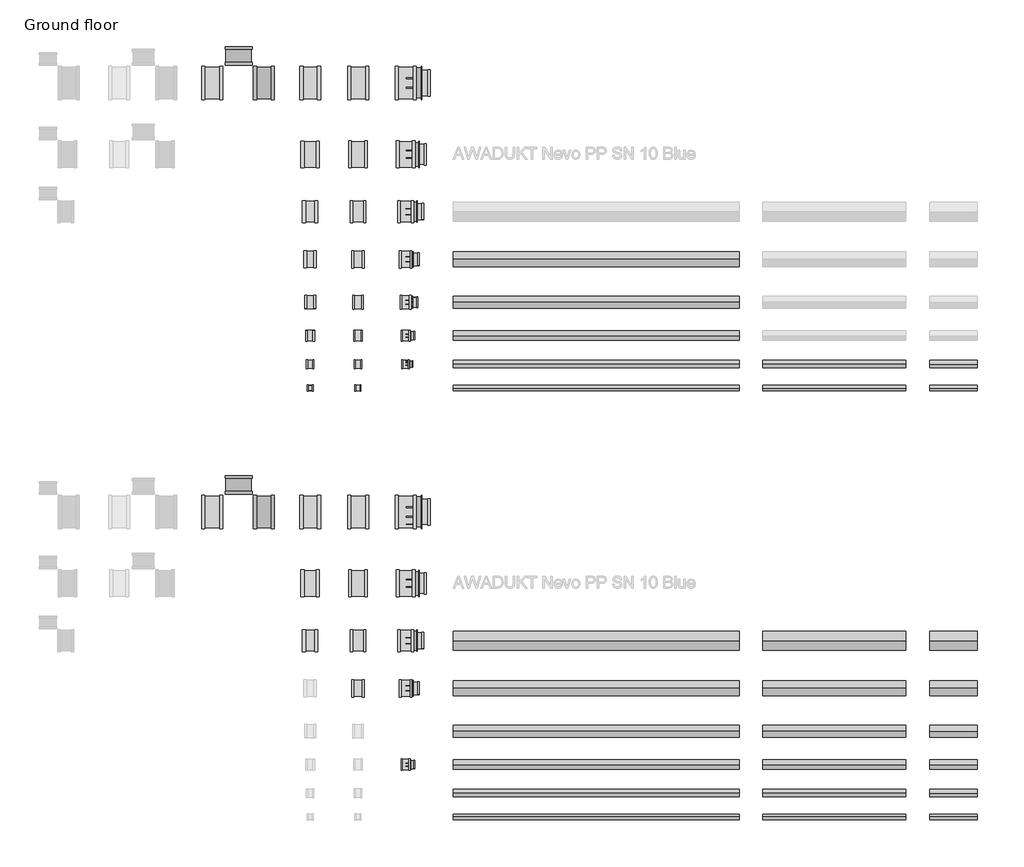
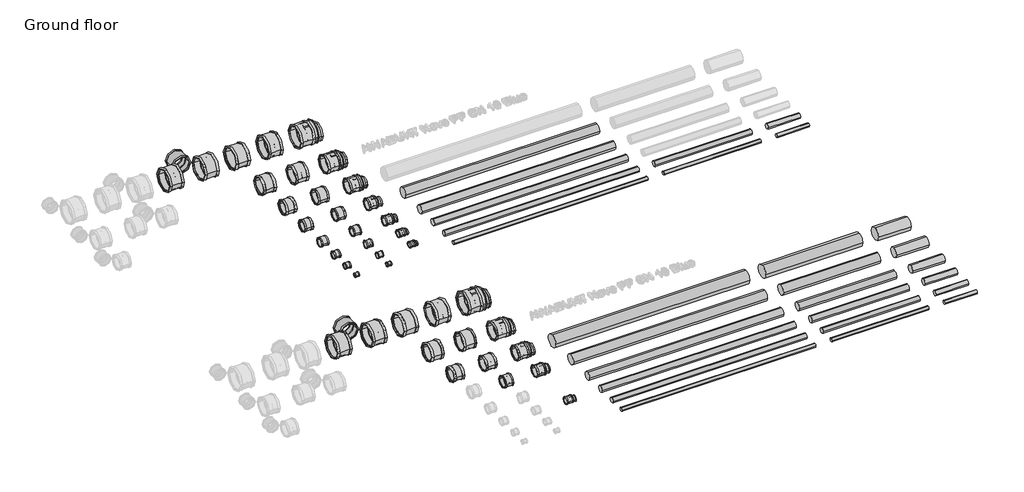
# One storey, part 5 of 10: 53 pipe fittings, 27 pipe segments.
"""IFC4 building model written with IfcOpenShell, lengths in millimetres."""

from ifc_helpers import new_model, si_unit, point, frame, frame_2d, origin, origin_2d, place, context, project, spatial, circle_curve, trimmed, segment, composite_curve, outline, extrude, transform, mapped, element, save
from components import pipe_fitting_e5a81f0f, pipe_fitting_366f8f33, pipe_fitting_b5a722ff, pipe_fitting_9bc79c39, pipe_fitting_2c23b5e5, pipe_fitting_3dc9645f, pipe_fitting_a818c1c7, blue_2b39e290, blue_81cd2d72, blue_a7021721, blue_271a95f6, blue_93814ad8, blue_b31ea3b4, blue_9578d6e9, blue_be33dc46, blue_01f449b1, blue_d79e372c, blue_eca1b971, blue_b5fe305e, blue_9a590d53, orange_5b8476dd, orange_85c0008d, pipe_fitting_0ebad727

model = new_model("IFC4")

# Units and contexts
model_context = context("Model", 3, world=origin())
ifc_project = project(units=[si_unit("LENGTHUNIT", "METRE", prefix="MILLI")], contexts=[model_context])

# Site, building, storey
site = spatial("IfcSite", under=ifc_project)
building = spatial("IfcBuilding", under=site)
storey = spatial("IfcBuildingStorey", under=building, Name="Ground floor", Elevation=0.0)

# Pipe fittings
placement = place(None, origin())
pipe_fitting_shape = pipe_fitting_e5a81f0f(model_context)
element("IfcPipeFitting", 1, ObjectType="AWADUKT PP Union DSM : Orange No PID", at=placement, inside=storey, context=model_context, shape_type="MappedRepresentation", body=[
    mapped(pipe_fitting_shape, transform((52200.0, 11700.0, 0.0), x_axis=(1.0, 0.0, 0.0), y_axis=(0.0, 1.0, 0.0), z_axis=(0.0, 0.0, 1.0))),
])
pipe_fitting_2_shape = pipe_fitting_366f8f33(model_context)
element("IfcPipeFitting", 2, ObjectType="AWADUKT PP Union DSM : Blue No PID", at=placement, inside=storey, context=model_context, shape_type="MappedRepresentation", body=[
    mapped(pipe_fitting_2_shape, transform((48139.0, 6400.0, 0.0), x_axis=(1.0, 0.0, 0.0), y_axis=(0.0, 1.0, 0.0), z_axis=(0.0, 0.0, 1.0))),
])
element("IfcPipeFitting", 3, ObjectType="AWADUKT PP Union DSM : Blue No PID", at=placement, inside=storey, context=model_context, shape_type="MappedRepresentation", body=[
    mapped(pipe_fitting_2_shape, transform((49236.0, 6400.0, 0.0), x_axis=(-1.0, 0.0, 0.0), y_axis=(0.0, -1.0, 0.0), z_axis=(0.0, 0.0, 1.0))),
])
element("IfcPipeFitting", 4, ObjectType="AWADUKT PP Union DSM : Blue No PID", at=placement, inside=storey, context=model_context, shape_type="MappedRepresentation", body=[
    mapped(pipe_fitting_2_shape, transform((52200.0, 6400.0, 0.0), x_axis=(1.0, 0.0, 0.0), y_axis=(0.0, 1.0, 0.0), z_axis=(0.0, 0.0, 1.0))),
])
pipe_fitting_3_shape = pipe_fitting_b5a722ff(model_context)
element("IfcPipeFitting", 5, ObjectType="AWADUKT PP Union DSM : Blue No PID", at=placement, inside=storey, context=model_context, shape_type="MappedRepresentation", body=[
    mapped(pipe_fitting_3_shape, transform((52200.0, 1100.0, 0.0), x_axis=(1.0, 0.0, 0.0), y_axis=(0.0, 1.0, 0.0), z_axis=(0.0, 0.0, 1.0))),
])
element("IfcPipeFitting", 6, ObjectType="AWADUKT PP Union DSM : Blue No PID", at=placement, inside=storey, context=model_context, shape_type="MappedRepresentation", body=[
    mapped(pipe_fitting_shape, transform((52200.0, 2700.0, 0.0), x_axis=(1.0, 0.0, 0.0), y_axis=(0.0, 1.0, 0.0), z_axis=(0.0, 0.0, 1.0))),
])
pipe_fitting_4_shape = pipe_fitting_9bc79c39(model_context)
element("IfcPipeFitting", 7, ObjectType="AWADUKT PP Union DSM : Blue No PID", at=placement, inside=storey, context=model_context, shape_type="MappedRepresentation", body=[
    mapped(pipe_fitting_4_shape, transform((52200.0, 3700.0, 0.0), x_axis=(1.0, 0.0, 0.0), y_axis=(0.0, 1.0, 0.0), z_axis=(0.0, 0.0, 1.0))),
])
pipe_fitting_5_shape = pipe_fitting_2c23b5e5(model_context)
element("IfcPipeFitting", 8, ObjectType="AWADUKT PP Union DSM : Blue No PID", at=placement, inside=storey, context=model_context, shape_type="MappedRepresentation", body=[
    mapped(pipe_fitting_5_shape, transform((48700.0, 6964.0, 0.0), x_axis=(0.0, 1.0, 0.0), y_axis=(-1.0, 0.0, 0.0), z_axis=(0.0, 0.0, 1.0))),
])
element("IfcPipeFitting", 9, ObjectType="AWADUKT PP Union DSM : Blue No PID", at=placement, inside=storey, context=model_context, shape_type="MappedRepresentation", body=[
    mapped(pipe_fitting_5_shape, transform((52200.0, 4900.0, 0.0), x_axis=(1.0, 0.0, 0.0), y_axis=(0.0, 1.0, 0.0), z_axis=(0.0, 0.0, 1.0))),
])
pipe_fitting_6_shape = pipe_fitting_3dc9645f(model_context)
element("IfcPipeFitting", 10, ObjectType="AWADUKT PP Union DSM : Orange No PID", at=placement, inside=storey, context=model_context, shape_type="MappedRepresentation", body=[
    mapped(pipe_fitting_6_shape, transform((52200.0, 9500.0, 0.0), x_axis=(1.0, 0.0, 0.0), y_axis=(0.0, 1.0, 0.0), z_axis=(0.0, 0.0, 1.0))),
])
element("IfcPipeFitting", 11, ObjectType="AWADUKT PP Union DSM : Orange No PID", at=placement, inside=storey, context=model_context, shape_type="MappedRepresentation", body=[
    mapped(pipe_fitting_3_shape, transform((52200.0, 10100.0, 0.0), x_axis=(1.0, 0.0, 0.0), y_axis=(0.0, 1.0, 0.0), z_axis=(0.0, 0.0, 1.0))),
])
pipe_fitting_7_shape = pipe_fitting_a818c1c7(model_context)
element("IfcPipeFitting", 12, ObjectType="AWADUKT PP Union DSM : Orange No PID", at=placement, inside=storey, context=model_context, shape_type="MappedRepresentation", body=[
    mapped(pipe_fitting_7_shape, transform((52200.0, 10800.0, 0.0), x_axis=(1.0, 0.0, 0.0), y_axis=(0.0, 1.0, 0.0), z_axis=(0.0, 0.0, 1.0))),
])
element("IfcPipeFitting", 13, ObjectType="AWADUKT PP Union DSM : Orange No PID", at=placement, inside=storey, context=model_context, shape_type="MappedRepresentation", body=[
    mapped(pipe_fitting_4_shape, transform((52200.0, 12700.0, 0.0), x_axis=(1.0, 0.0, 0.0), y_axis=(0.0, 1.0, 0.0), z_axis=(0.0, 0.0, 1.0))),
])
element("IfcPipeFitting", 14, ObjectType="AWADUKT PP Union DSM : Orange No PID", at=placement, inside=storey, context=model_context, shape_type="MappedRepresentation", body=[
    mapped(pipe_fitting_5_shape, transform((48700.0, 15964.0, 0.0), x_axis=(0.0, 1.0, 0.0), y_axis=(-1.0, 0.0, 0.0), z_axis=(0.0, 0.0, 1.0))),
])
element("IfcPipeFitting", 15, ObjectType="AWADUKT PP Union DSM : Orange No PID", at=placement, inside=storey, context=model_context, shape_type="MappedRepresentation", body=[
    mapped(pipe_fitting_5_shape, transform((52200.0, 13900.0, 0.0), x_axis=(1.0, 0.0, 0.0), y_axis=(0.0, 1.0, 0.0), z_axis=(0.0, 0.0, 1.0))),
])
element("IfcPipeFitting", 16, ObjectType="AWADUKT PP Union DSM : Orange No PID", at=placement, inside=storey, context=model_context, shape_type="MappedRepresentation", body=[
    mapped(pipe_fitting_2_shape, transform((48139.0, 15400.0, 0.0), x_axis=(1.0, 0.0, 0.0), y_axis=(0.0, 1.0, 0.0), z_axis=(0.0, 0.0, 1.0))),
])
element("IfcPipeFitting", 17, ObjectType="AWADUKT PP Union DSM : Orange No PID", at=placement, inside=storey, context=model_context, shape_type="MappedRepresentation", body=[
    mapped(pipe_fitting_2_shape, transform((49236.0, 15400.0, 0.0), x_axis=(-1.0, 0.0, 0.0), y_axis=(0.0, -1.0, 0.0), z_axis=(0.0, 0.0, 1.0))),
])
element("IfcPipeFitting", 18, ObjectType="AWADUKT PP Union DSM : Orange No PID", at=placement, inside=storey, context=model_context, shape_type="MappedRepresentation", body=[
    mapped(pipe_fitting_2_shape, transform((52200.0, 15400.0, 0.0), x_axis=(1.0, 0.0, 0.0), y_axis=(0.0, 1.0, 0.0), z_axis=(0.0, 0.0, 1.0))),
])
element("IfcPipeFitting", 19, ObjectType="AWADUKT PP Union DSM : Blue", at=placement, inside=storey, context=model_context, shape_type="MappedRepresentation", body=[
    mapped(pipe_fitting_2_shape, transform((51200.0, 6400.0, 0.0), x_axis=(1.0, 0.0, 0.0), y_axis=(0.0, 1.0, 0.0), z_axis=(0.0, 0.0, 1.0))),
])
blue_shape = blue_2b39e290(model_context)
element("IfcPipeFitting", 20, ObjectType="AWADUKT PP Union USM : Blue", at=placement, inside=storey, context=model_context, shape_type="MappedRepresentation", body=[
    mapped(blue_shape, transform((50200.0, 6400.0, 0.0), x_axis=(1.0, 0.0, 0.0), y_axis=(0.0, 1.0, 0.0), z_axis=(0.0, 0.0, 1.0))),
])
blue_2_shape = blue_81cd2d72(model_context)
element("IfcPipeFitting", 21, ObjectType="AWADUKT PP Union USM : Blue", at=placement, inside=storey, context=model_context, shape_type="MappedRepresentation", body=[
    mapped(blue_2_shape, transform((50200.0, 3700.0, 0.0), x_axis=(1.0, 0.0, 0.0), y_axis=(0.0, 1.0, 0.0), z_axis=(0.0, 0.0, 1.0))),
])
blue_3_shape = blue_a7021721(model_context)
element("IfcPipeFitting", 22, ObjectType="AWADUKT PP Union USM : Blue", at=placement, inside=storey, context=model_context, shape_type="MappedRepresentation", body=[
    mapped(blue_3_shape, transform((50200.0, 4900.0, 0.0), x_axis=(1.0, 0.0, 0.0), y_axis=(0.0, 1.0, 0.0), z_axis=(0.0, 0.0, 1.0))),
])
blue_4_shape = blue_271a95f6(model_context)
element("IfcPipeFitting", 23, ObjectType="AWADUKT PP Transition : Blue", at=placement, inside=storey, context=model_context, shape_type="MappedRepresentation", body=[
    mapped(blue_4_shape, transform((52200.0, 1100.0, 0.0), x_axis=(1.0, 0.0, 0.0), y_axis=(0.0, 1.0, 0.0), z_axis=(0.0, 0.0, 1.0))),
])
blue_5_shape = blue_93814ad8(model_context)
element("IfcPipeFitting", 24, ObjectType="AWADUKT PP Transition : Blue", at=placement, inside=storey, context=model_context, shape_type="MappedRepresentation", body=[
    mapped(blue_5_shape, transform((52200.0, 2700.0, 0.0), x_axis=(1.0, 0.0, 0.0), y_axis=(0.0, 1.0, 0.0), z_axis=(0.0, 0.0, 1.0))),
])
blue_6_shape = blue_b31ea3b4(model_context)
element("IfcPipeFitting", 25, ObjectType="AWADUKT PP Transition : Blue", at=placement, inside=storey, context=model_context, shape_type="MappedRepresentation", body=[
    mapped(blue_6_shape, transform((52200.0, 3700.0, 0.0), x_axis=(1.0, 0.0, 0.0), y_axis=(0.0, 1.0, 0.0), z_axis=(0.0, 0.0, 1.0))),
])
blue_7_shape = blue_9578d6e9(model_context)
element("IfcPipeFitting", 26, ObjectType="AWADUKT PP Transition : Blue", at=placement, inside=storey, context=model_context, shape_type="MappedRepresentation", body=[
    mapped(blue_7_shape, transform((52200.0, 4900.0, 0.0), x_axis=(1.0, 0.0, 0.0), y_axis=(0.0, 1.0, 0.0), z_axis=(0.0, 0.0, 1.0))),
])
blue_8_shape = blue_be33dc46(model_context)
element("IfcPipeFitting", 27, ObjectType="AWADUKT PP Transition : Blue", at=placement, inside=storey, context=model_context, shape_type="MappedRepresentation", body=[
    mapped(blue_8_shape, transform((52200.0, 6400.0, 0.0), x_axis=(1.0, 0.0, 0.0), y_axis=(0.0, 1.0, 0.0), z_axis=(0.0, 0.0, 1.0))),
])
element("IfcPipeFitting", 28, ObjectType="AWADUKT PP Union DSM : Blue", at=placement, inside=storey, context=model_context, shape_type="MappedRepresentation", body=[
    mapped(pipe_fitting_shape, transform((51200.0, 2700.0, 0.0), x_axis=(1.0, 0.0, 0.0), y_axis=(0.0, 1.0, 0.0), z_axis=(0.0, 0.0, 1.0))),
])
element("IfcPipeFitting", 29, ObjectType="AWADUKT PP Union DSM : Blue", at=placement, inside=storey, context=model_context, shape_type="MappedRepresentation", body=[
    mapped(pipe_fitting_4_shape, transform((51200.0, 3700.0, 0.0), x_axis=(1.0, 0.0, 0.0), y_axis=(0.0, 1.0, 0.0), z_axis=(0.0, 0.0, 1.0))),
])
element("IfcPipeFitting", 30, ObjectType="AWADUKT PP Union DSM : Blue", at=placement, inside=storey, context=model_context, shape_type="MappedRepresentation", body=[
    mapped(pipe_fitting_5_shape, transform((51200.0, 4900.0, 0.0), x_axis=(1.0, 0.0, 0.0), y_axis=(0.0, 1.0, 0.0), z_axis=(0.0, 0.0, 1.0))),
])
element("IfcPipeFitting", 31, ObjectType="AWADUKT PP Union DSM : Orange", at=placement, inside=storey, context=model_context, shape_type="MappedRepresentation", body=[
    mapped(pipe_fitting_2_shape, transform((51200.0, 15400.0, 0.0), x_axis=(1.0, 0.0, 0.0), y_axis=(0.0, 1.0, 0.0), z_axis=(0.0, 0.0, 1.0))),
])
element("IfcPipeFitting", 32, ObjectType="AWADUKT PP Transition : Orange", at=placement, inside=storey, context=model_context, shape_type="MappedRepresentation", body=[
    mapped(blue_5_shape, transform((52200.0, 11700.0, 0.0), x_axis=(1.0, 0.0, 0.0), y_axis=(0.0, 1.0, 0.0), z_axis=(0.0, 0.0, 1.0))),
])
element("IfcPipeFitting", 33, ObjectType="AWADUKT PP Union USM : Orange", at=placement, inside=storey, context=model_context, shape_type="MappedRepresentation", body=[
    mapped(blue_shape, transform((50200.0, 15400.0, 0.0), x_axis=(1.0, 0.0, 0.0), y_axis=(0.0, 1.0, 0.0), z_axis=(0.0, 0.0, 1.0))),
])
blue_9_shape = blue_01f449b1(model_context)
element("IfcPipeFitting", 34, ObjectType="AWADUKT PP Union USM : Orange", at=placement, inside=storey, context=model_context, shape_type="MappedRepresentation", body=[
    mapped(blue_9_shape, transform((50200.0, 9000.0, 0.0), x_axis=(1.0, 0.0, 0.0), y_axis=(0.0, 1.0, 0.0), z_axis=(0.0, 0.0, 1.0))),
])
blue_10_shape = blue_d79e372c(model_context)
element("IfcPipeFitting", 35, ObjectType="AWADUKT PP Union USM : Orange", at=placement, inside=storey, context=model_context, shape_type="MappedRepresentation", body=[
    mapped(blue_10_shape, transform((50200.0, 10100.0, 0.0), x_axis=(1.0, 0.0, 0.0), y_axis=(0.0, 1.0, 0.0), z_axis=(0.0, 0.0, 1.0))),
])
blue_11_shape = blue_eca1b971(model_context)
element("IfcPipeFitting", 36, ObjectType="AWADUKT PP Union USM : Orange", at=placement, inside=storey, context=model_context, shape_type="MappedRepresentation", body=[
    mapped(blue_11_shape, transform((50200.0, 10800.0, 0.0), x_axis=(1.0, 0.0, 0.0), y_axis=(0.0, 1.0, 0.0), z_axis=(0.0, 0.0, 1.0))),
])
blue_12_shape = blue_b5fe305e(model_context)
element("IfcPipeFitting", 37, ObjectType="AWADUKT PP Union USM : Orange", at=placement, inside=storey, context=model_context, shape_type="MappedRepresentation", body=[
    mapped(blue_12_shape, transform((50200.0, 11700.0, 0.0), x_axis=(1.0, 0.0, 0.0), y_axis=(0.0, 1.0, 0.0), z_axis=(0.0, 0.0, 1.0))),
])
element("IfcPipeFitting", 38, ObjectType="AWADUKT PP Union USM : Orange", at=placement, inside=storey, context=model_context, shape_type="MappedRepresentation", body=[
    mapped(blue_2_shape, transform((50200.0, 12700.0, 0.0), x_axis=(1.0, 0.0, 0.0), y_axis=(0.0, 1.0, 0.0), z_axis=(0.0, 0.0, 1.0))),
])
element("IfcPipeFitting", 39, ObjectType="AWADUKT PP Union USM : Orange", at=placement, inside=storey, context=model_context, shape_type="MappedRepresentation", body=[
    mapped(blue_3_shape, transform((50200.0, 13900.0, 0.0), x_axis=(1.0, 0.0, 0.0), y_axis=(0.0, 1.0, 0.0), z_axis=(0.0, 0.0, 1.0))),
])
blue_13_shape = blue_9a590d53(model_context)
element("IfcPipeFitting", 40, ObjectType="AWADUKT PP Union USM : Orange", at=placement, inside=storey, context=model_context, shape_type="MappedRepresentation", body=[
    mapped(blue_13_shape, transform((50200.0, 9500.0, 0.0), x_axis=(1.0, 0.0, 0.0), y_axis=(0.0, 1.0, 0.0), z_axis=(0.0, 0.0, 1.0))),
])
element("IfcPipeFitting", 41, ObjectType="AWADUKT PP Transition : Orange", at=placement, inside=storey, context=model_context, shape_type="MappedRepresentation", body=[
    mapped(blue_4_shape, transform((52200.0, 10100.0, 0.0), x_axis=(1.0, 0.0, 0.0), y_axis=(0.0, 1.0, 0.0), z_axis=(0.0, 0.0, 1.0))),
])
orange_shape = orange_5b8476dd(model_context)
element("IfcPipeFitting", 42, ObjectType="AWADUKT PP Transition : Orange", at=placement, inside=storey, context=model_context, shape_type="MappedRepresentation", body=[
    mapped(orange_shape, transform((52200.0, 10800.0, 0.0), x_axis=(1.0, 0.0, 0.0), y_axis=(0.0, 1.0, 0.0), z_axis=(0.0, 0.0, 1.0))),
])
element("IfcPipeFitting", 43, ObjectType="AWADUKT PP Transition : Orange", at=placement, inside=storey, context=model_context, shape_type="MappedRepresentation", body=[
    mapped(blue_6_shape, transform((52200.0, 12700.0, 0.0), x_axis=(1.0, 0.0, 0.0), y_axis=(0.0, 1.0, 0.0), z_axis=(0.0, 0.0, 1.0))),
])
element("IfcPipeFitting", 44, ObjectType="AWADUKT PP Transition : Orange", at=placement, inside=storey, context=model_context, shape_type="MappedRepresentation", body=[
    mapped(blue_7_shape, transform((52200.0, 13900.0, 0.0), x_axis=(1.0, 0.0, 0.0), y_axis=(0.0, 1.0, 0.0), z_axis=(0.0, 0.0, 1.0))),
])
element("IfcPipeFitting", 45, ObjectType="AWADUKT PP Transition : Orange", at=placement, inside=storey, context=model_context, shape_type="MappedRepresentation", body=[
    mapped(blue_8_shape, transform((52200.0, 15400.0, 0.0), x_axis=(1.0, 0.0, 0.0), y_axis=(0.0, 1.0, 0.0), z_axis=(0.0, 0.0, 1.0))),
])
orange_2_shape = orange_85c0008d(model_context)
element("IfcPipeFitting", 46, ObjectType="AWADUKT PP Transition : Orange", at=placement, inside=storey, context=model_context, shape_type="MappedRepresentation", body=[
    mapped(orange_2_shape, transform((52200.0, 9500.0, 0.0), x_axis=(1.0, 0.0, 0.0), y_axis=(0.0, 1.0, 0.0), z_axis=(0.0, 0.0, 1.0))),
])
pipe_fitting_8_shape = pipe_fitting_0ebad727(model_context)
element("IfcPipeFitting", 47, ObjectType="AWADUKT PP Union DSM : Orange", at=placement, inside=storey, context=model_context, shape_type="MappedRepresentation", body=[
    mapped(pipe_fitting_8_shape, transform((51200.0, 9000.0, 0.0), x_axis=(1.0, 0.0, 0.0), y_axis=(0.0, 1.0, 0.0), z_axis=(0.0, 0.0, 1.0))),
])
element("IfcPipeFitting", 48, ObjectType="AWADUKT PP Union DSM : Orange", at=placement, inside=storey, context=model_context, shape_type="MappedRepresentation", body=[
    mapped(pipe_fitting_3_shape, transform((51200.0, 10100.0, 0.0), x_axis=(1.0, 0.0, 0.0), y_axis=(0.0, 1.0, 0.0), z_axis=(0.0, 0.0, 1.0))),
])
element("IfcPipeFitting", 49, ObjectType="AWADUKT PP Union DSM : Orange", at=placement, inside=storey, context=model_context, shape_type="MappedRepresentation", body=[
    mapped(pipe_fitting_7_shape, transform((51200.0, 10800.0, 0.0), x_axis=(1.0, 0.0, 0.0), y_axis=(0.0, 1.0, 0.0), z_axis=(0.0, 0.0, 1.0))),
])
element("IfcPipeFitting", 50, ObjectType="AWADUKT PP Union DSM : Orange", at=placement, inside=storey, context=model_context, shape_type="MappedRepresentation", body=[
    mapped(pipe_fitting_shape, transform((51200.0, 11700.0, 0.0), x_axis=(1.0, 0.0, 0.0), y_axis=(0.0, 1.0, 0.0), z_axis=(0.0, 0.0, 1.0))),
])
element("IfcPipeFitting", 51, ObjectType="AWADUKT PP Union DSM : Orange", at=placement, inside=storey, context=model_context, shape_type="MappedRepresentation", body=[
    mapped(pipe_fitting_4_shape, transform((51200.0, 12700.0, 0.0), x_axis=(1.0, 0.0, 0.0), y_axis=(0.0, 1.0, 0.0), z_axis=(0.0, 0.0, 1.0))),
])
element("IfcPipeFitting", 52, ObjectType="AWADUKT PP Union DSM : Orange", at=placement, inside=storey, context=model_context, shape_type="MappedRepresentation", body=[
    mapped(pipe_fitting_5_shape, transform((51200.0, 13900.0, 0.0), x_axis=(1.0, 0.0, 0.0), y_axis=(0.0, 1.0, 0.0), z_axis=(0.0, 0.0, 1.0))),
])
element("IfcPipeFitting", 53, ObjectType="AWADUKT PP Union DSM : Orange", at=placement, inside=storey, context=model_context, shape_type="MappedRepresentation", body=[
    mapped(pipe_fitting_6_shape, transform((51200.0, 9500.0, 0.0), x_axis=(1.0, 0.0, 0.0), y_axis=(0.0, 1.0, 0.0), z_axis=(0.0, 0.0, 1.0))),
])

# Pipe segments
element("IfcPipeSegment", 54, ObjectType="AWADUKT NevoPP SN10 Blue", at=placement, inside=storey, context=model_context, shape_type="SweptSolid", body=[
    extrude(outline(composite_curve([segment(trimmed(circle_curve(origin_2d(), 55.0), [point((-55.0, 0.0))], [point((0.0, 55.0))], False, "CARTESIAN"), True, "CONTINUOUS"), segment(trimmed(circle_curve(origin_2d(), 55.0), [point((0.0, 55.0))], [point((55.0, 0.0))], False, "CARTESIAN"), True, "CONTINUOUS"), segment(trimmed(circle_curve(origin_2d(), 55.0), [point((55.0, 0.0))], [point((0.0, -55.0))], False, "CARTESIAN"), True, "CONTINUOUS"), segment(trimmed(circle_curve(origin_2d(), 55.0), [point((0.0, -55.0))], [point((-55.0, 0.0))], False, "CARTESIAN"), True, "CONTINUOUS")], self_intersect=False)), frame((53200.0, 0.0, 0.0), z_axis=(1.0, 0.0, 0.0), x_axis=(0.0, 1.0, 0.0)), (0.0, 0.0, 1.0), 6000.0),
])
element("IfcPipeSegment", 55, ObjectType="AWADUKT NevoPP SN10 Blue", at=placement, inside=storey, context=model_context, shape_type="SweptSolid", body=[
    extrude(outline(composite_curve([segment(trimmed(circle_curve(frame_2d((500.0, 0.0)), 80.0), [point((420.0, 0.0))], [point((500.0, 80.0))], False, "CARTESIAN"), True, "CONTINUOUS"), segment(trimmed(circle_curve(frame_2d((500.0, 0.0)), 80.0), [point((500.0, 80.0))], [point((580.0, 0.0))], False, "CARTESIAN"), True, "CONTINUOUS"), segment(trimmed(circle_curve(frame_2d((500.0, 0.0)), 80.0), [point((580.0, 0.0))], [point((500.0, -80.0))], False, "CARTESIAN"), True, "CONTINUOUS"), segment(trimmed(circle_curve(frame_2d((500.0, 0.0)), 80.0), [point((500.0, -80.0))], [point((420.0, 0.0))], False, "CARTESIAN"), True, "CONTINUOUS")], self_intersect=False)), frame((53200.0, 0.0, 0.0), z_axis=(1.0, 0.0, 0.0), x_axis=(0.0, 1.0, 0.0)), (0.0, 0.0, 1.0), 6000.0),
])
element("IfcPipeSegment", 56, ObjectType="AWADUKT NevoPP SN10 Blue", at=placement, inside=storey, context=model_context, shape_type="SweptSolid", body=[
    extrude(outline(composite_curve([segment(trimmed(circle_curve(frame_2d((1100.0, 0.0)), 100.0), [point((1000.0, 0.0))], [point((1100.0, 100.0))], False, "CARTESIAN"), True, "CONTINUOUS"), segment(trimmed(circle_curve(frame_2d((1100.0, 0.0)), 100.0), [point((1100.0, 100.0))], [point((1200.0, 0.0))], False, "CARTESIAN"), True, "CONTINUOUS"), segment(trimmed(circle_curve(frame_2d((1100.0, 0.0)), 100.0), [point((1200.0, 0.0))], [point((1100.0, -100.0))], False, "CARTESIAN"), True, "CONTINUOUS"), segment(trimmed(circle_curve(frame_2d((1100.0, 0.0)), 100.0), [point((1100.0, -100.0))], [point((1000.0, 0.0))], False, "CARTESIAN"), True, "CONTINUOUS")], self_intersect=False)), frame((53200.0, 0.0, 0.0), z_axis=(1.0, 0.0, 0.0), x_axis=(0.0, 1.0, 0.0)), (0.0, 0.0, 1.0), 6000.0),
])
element("IfcPipeSegment", 57, ObjectType="AWADUKT NevoPP SN10 Blue", at=placement, inside=storey, context=model_context, shape_type="SweptSolid", body=[
    extrude(outline(composite_curve([segment(trimmed(circle_curve(frame_2d((1800.0, 0.0)), 125.0), [point((1675.0, 0.0))], [point((1800.0, 125.0))], False, "CARTESIAN"), True, "CONTINUOUS"), segment(trimmed(circle_curve(frame_2d((1800.0, 0.0)), 125.0), [point((1800.0, 125.0))], [point((1925.0, 0.0))], False, "CARTESIAN"), True, "CONTINUOUS"), segment(trimmed(circle_curve(frame_2d((1800.0, 0.0)), 125.0), [point((1925.0, 0.0))], [point((1800.0, -125.0))], False, "CARTESIAN"), True, "CONTINUOUS"), segment(trimmed(circle_curve(frame_2d((1800.0, 0.0)), 125.0), [point((1800.0, -125.0))], [point((1675.0, 0.0))], False, "CARTESIAN"), True, "CONTINUOUS")], self_intersect=False)), frame((53200.0, 0.0, 0.0), z_axis=(1.0, 0.0, 0.0), x_axis=(0.0, 1.0, 0.0)), (0.0, 0.0, 1.0), 6000.0),
])
element("IfcPipeSegment", 58, ObjectType="AWADUKT NevoPP SN10 Blue", at=placement, inside=storey, context=model_context, shape_type="SweptSolid", body=[
    extrude(outline(composite_curve([segment(trimmed(circle_curve(frame_2d((2700.0, 0.0)), 157.5), [point((2542.5, 0.0))], [point((2700.0, 157.5))], False, "CARTESIAN"), True, "CONTINUOUS"), segment(trimmed(circle_curve(frame_2d((2700.0, 0.0)), 157.5), [point((2700.0, 157.5))], [point((2857.5, 0.0))], False, "CARTESIAN"), True, "CONTINUOUS"), segment(trimmed(circle_curve(frame_2d((2700.0, 0.0)), 157.5), [point((2857.5, 0.0))], [point((2700.0, -157.5))], False, "CARTESIAN"), True, "CONTINUOUS"), segment(trimmed(circle_curve(frame_2d((2700.0, 0.0)), 157.5), [point((2700.0, -157.5))], [point((2542.5, 0.0))], False, "CARTESIAN"), True, "CONTINUOUS")], self_intersect=False)), frame((53200.0, 0.0, 0.0), z_axis=(1.0, 0.0, 0.0), x_axis=(0.0, 1.0, 0.0)), (0.0, 0.0, 1.0), 6000.0),
])
element("IfcPipeSegment", 59, ObjectType="AWADUKT NevoPP SN10 Blue", at=placement, inside=storey, context=model_context, shape_type="SweptSolid", body=[
    extrude(outline(composite_curve([segment(trimmed(circle_curve(frame_2d((3700.0, 0.0)), 200.0), [point((3500.0, 0.0))], [point((3700.0, 200.0))], False, "CARTESIAN"), True, "CONTINUOUS"), segment(trimmed(circle_curve(frame_2d((3700.0, 0.0)), 200.0), [point((3700.0, 200.0))], [point((3900.0, 0.0))], False, "CARTESIAN"), True, "CONTINUOUS"), segment(trimmed(circle_curve(frame_2d((3700.0, 0.0)), 200.0), [point((3900.0, 0.0))], [point((3700.0, -200.0))], False, "CARTESIAN"), True, "CONTINUOUS"), segment(trimmed(circle_curve(frame_2d((3700.0, 0.0)), 200.0), [point((3700.0, -200.0))], [point((3500.0, 0.0))], False, "CARTESIAN"), True, "CONTINUOUS")], self_intersect=False)), frame((53200.0, 0.0, 0.0), z_axis=(1.0, 0.0, 0.0), x_axis=(0.0, 1.0, 0.0)), (0.0, 0.0, 1.0), 6000.0),
])
element("IfcPipeSegment", 60, ObjectType="AWADUKT NevoPP SN10 Blue", at=placement, inside=storey, context=model_context, shape_type="SweptSolid", body=[
    extrude(outline(composite_curve([segment(trimmed(circle_curve(origin_2d(), 55.0), [point((-55.0, 0.0))], [point((0.0, 55.0))], False, "CARTESIAN"), True, "CONTINUOUS"), segment(trimmed(circle_curve(origin_2d(), 55.0), [point((0.0, 55.0))], [point((55.0, 0.0))], False, "CARTESIAN"), True, "CONTINUOUS"), segment(trimmed(circle_curve(origin_2d(), 55.0), [point((55.0, 0.0))], [point((0.0, -55.0))], False, "CARTESIAN"), True, "CONTINUOUS"), segment(trimmed(circle_curve(origin_2d(), 55.0), [point((0.0, -55.0))], [point((-55.0, 0.0))], False, "CARTESIAN"), True, "CONTINUOUS")], self_intersect=False)), frame((59700.0, 0.0, 0.0), z_axis=(1.0, 0.0, 0.0), x_axis=(0.0, 1.0, 0.0)), (0.0, 0.0, 1.0), 3000.0),
])
element("IfcPipeSegment", 61, ObjectType="AWADUKT NevoPP SN10 Blue", at=placement, inside=storey, context=model_context, shape_type="SweptSolid", body=[
    extrude(outline(composite_curve([segment(trimmed(circle_curve(frame_2d((500.0, 0.0)), 80.0), [point((420.0, 0.0))], [point((500.0, 80.0))], False, "CARTESIAN"), True, "CONTINUOUS"), segment(trimmed(circle_curve(frame_2d((500.0, 0.0)), 80.0), [point((500.0, 80.0))], [point((580.0, 0.0))], False, "CARTESIAN"), True, "CONTINUOUS"), segment(trimmed(circle_curve(frame_2d((500.0, 0.0)), 80.0), [point((580.0, 0.0))], [point((500.0, -80.0))], False, "CARTESIAN"), True, "CONTINUOUS"), segment(trimmed(circle_curve(frame_2d((500.0, 0.0)), 80.0), [point((500.0, -80.0))], [point((420.0, 0.0))], False, "CARTESIAN"), True, "CONTINUOUS")], self_intersect=False)), frame((59700.0, 0.0, 0.0), z_axis=(1.0, 0.0, 0.0), x_axis=(0.0, 1.0, 0.0)), (0.0, 0.0, 1.0), 3000.0),
])
element("IfcPipeSegment", 62, ObjectType="AWADUKT NevoPP SN10 Blue", at=placement, inside=storey, context=model_context, shape_type="SweptSolid", body=[
    extrude(outline(composite_curve([segment(trimmed(circle_curve(frame_2d((1100.0, 0.0)), 100.0), [point((1000.0, 0.0))], [point((1100.0, 100.0))], False, "CARTESIAN"), True, "CONTINUOUS"), segment(trimmed(circle_curve(frame_2d((1100.0, 0.0)), 100.0), [point((1100.0, 100.0))], [point((1200.0, 0.0))], False, "CARTESIAN"), True, "CONTINUOUS"), segment(trimmed(circle_curve(frame_2d((1100.0, 0.0)), 100.0), [point((1200.0, 0.0))], [point((1100.0, -100.0))], False, "CARTESIAN"), True, "CONTINUOUS"), segment(trimmed(circle_curve(frame_2d((1100.0, 0.0)), 100.0), [point((1100.0, -100.0))], [point((1000.0, 0.0))], False, "CARTESIAN"), True, "CONTINUOUS")], self_intersect=False)), frame((59700.0, 0.0, 0.0), z_axis=(1.0, 0.0, 0.0), x_axis=(0.0, 1.0, 0.0)), (0.0, 0.0, 1.0), 3000.0),
])
element("IfcPipeSegment", 63, ObjectType="AWADUKT NevoPP SN10 Blue", at=placement, inside=storey, context=model_context, shape_type="SweptSolid", body=[
    extrude(outline(composite_curve([segment(trimmed(circle_curve(frame_2d((1800.0, 0.0)), 125.0), [point((1675.0, 0.0))], [point((1800.0, 125.0))], False, "CARTESIAN"), True, "CONTINUOUS"), segment(trimmed(circle_curve(frame_2d((1800.0, 0.0)), 125.0), [point((1800.0, 125.0))], [point((1925.0, 0.0))], False, "CARTESIAN"), True, "CONTINUOUS"), segment(trimmed(circle_curve(frame_2d((1800.0, 0.0)), 125.0), [point((1925.0, 0.0))], [point((1800.0, -125.0))], False, "CARTESIAN"), True, "CONTINUOUS"), segment(trimmed(circle_curve(frame_2d((1800.0, 0.0)), 125.0), [point((1800.0, -125.0))], [point((1675.0, 0.0))], False, "CARTESIAN"), True, "CONTINUOUS")], self_intersect=False)), frame((59700.0, 0.0, 0.0), z_axis=(1.0, 0.0, 0.0), x_axis=(0.0, 1.0, 0.0)), (0.0, 0.0, 1.0), 3000.0),
])
element("IfcPipeSegment", 64, ObjectType="AWADUKT NevoPP SN10 Blue", at=placement, inside=storey, context=model_context, shape_type="SweptSolid", body=[
    extrude(outline(composite_curve([segment(trimmed(circle_curve(frame_2d((2700.0, 0.0)), 157.5), [point((2542.5, 0.0))], [point((2700.0, 157.5))], False, "CARTESIAN"), True, "CONTINUOUS"), segment(trimmed(circle_curve(frame_2d((2700.0, 0.0)), 157.5), [point((2700.0, 157.5))], [point((2857.5, 0.0))], False, "CARTESIAN"), True, "CONTINUOUS"), segment(trimmed(circle_curve(frame_2d((2700.0, 0.0)), 157.5), [point((2857.5, 0.0))], [point((2700.0, -157.5))], False, "CARTESIAN"), True, "CONTINUOUS"), segment(trimmed(circle_curve(frame_2d((2700.0, 0.0)), 157.5), [point((2700.0, -157.5))], [point((2542.5, 0.0))], False, "CARTESIAN"), True, "CONTINUOUS")], self_intersect=False)), frame((59700.0, 0.0, 0.0), z_axis=(1.0, 0.0, 0.0), x_axis=(0.0, 1.0, 0.0)), (0.0, 0.0, 1.0), 3000.0),
])
element("IfcPipeSegment", 65, ObjectType="AWADUKT NevoPP SN10 Blue", at=placement, inside=storey, context=model_context, shape_type="SweptSolid", body=[
    extrude(outline(composite_curve([segment(trimmed(circle_curve(frame_2d((3700.0, 0.0)), 200.0), [point((3500.0, 0.0))], [point((3700.0, 200.0))], False, "CARTESIAN"), True, "CONTINUOUS"), segment(trimmed(circle_curve(frame_2d((3700.0, 0.0)), 200.0), [point((3700.0, 200.0))], [point((3900.0, 0.0))], False, "CARTESIAN"), True, "CONTINUOUS"), segment(trimmed(circle_curve(frame_2d((3700.0, 0.0)), 200.0), [point((3900.0, 0.0))], [point((3700.0, -200.0))], False, "CARTESIAN"), True, "CONTINUOUS"), segment(trimmed(circle_curve(frame_2d((3700.0, 0.0)), 200.0), [point((3700.0, -200.0))], [point((3500.0, 0.0))], False, "CARTESIAN"), True, "CONTINUOUS")], self_intersect=False)), frame((59700.0, 0.0, 0.0), z_axis=(1.0, 0.0, 0.0), x_axis=(0.0, 1.0, 0.0)), (0.0, 0.0, 1.0), 3000.0),
])
element("IfcPipeSegment", 66, ObjectType="AWADUKT NevoPP SN10 Blue", at=placement, inside=storey, context=model_context, shape_type="SweptSolid", body=[
    extrude(outline(composite_curve([segment(trimmed(circle_curve(origin_2d(), 55.0), [point((-55.0, 0.0))], [point((0.0, 55.0))], False, "CARTESIAN"), True, "CONTINUOUS"), segment(trimmed(circle_curve(origin_2d(), 55.0), [point((0.0, 55.0))], [point((55.0, 0.0))], False, "CARTESIAN"), True, "CONTINUOUS"), segment(trimmed(circle_curve(origin_2d(), 55.0), [point((55.0, 0.0))], [point((0.0, -55.0))], False, "CARTESIAN"), True, "CONTINUOUS"), segment(trimmed(circle_curve(origin_2d(), 55.0), [point((0.0, -55.0))], [point((-55.0, 0.0))], False, "CARTESIAN"), True, "CONTINUOUS")], self_intersect=False)), frame((63200.0, 0.0, 0.0), z_axis=(1.0, 0.0, 0.0), x_axis=(0.0, 1.0, 0.0)), (0.0, 0.0, 1.0), 1000.0),
])
element("IfcPipeSegment", 67, ObjectType="AWADUKT NevoPP SN10 Blue", at=placement, inside=storey, context=model_context, shape_type="SweptSolid", body=[
    extrude(outline(composite_curve([segment(trimmed(circle_curve(frame_2d((500.0, 0.0)), 80.0), [point((420.0, 0.0))], [point((500.0, 80.0))], False, "CARTESIAN"), True, "CONTINUOUS"), segment(trimmed(circle_curve(frame_2d((500.0, 0.0)), 80.0), [point((500.0, 80.0))], [point((580.0, 0.0))], False, "CARTESIAN"), True, "CONTINUOUS"), segment(trimmed(circle_curve(frame_2d((500.0, 0.0)), 80.0), [point((580.0, 0.0))], [point((500.0, -80.0))], False, "CARTESIAN"), True, "CONTINUOUS"), segment(trimmed(circle_curve(frame_2d((500.0, 0.0)), 80.0), [point((500.0, -80.0))], [point((420.0, 0.0))], False, "CARTESIAN"), True, "CONTINUOUS")], self_intersect=False)), frame((63200.0, 0.0, 0.0), z_axis=(1.0, 0.0, 0.0), x_axis=(0.0, 1.0, 0.0)), (0.0, 0.0, 1.0), 1000.0),
])
element("IfcPipeSegment", 68, ObjectType="AWADUKT NevoPP SN10 Blue", at=placement, inside=storey, context=model_context, shape_type="SweptSolid", body=[
    extrude(outline(composite_curve([segment(trimmed(circle_curve(frame_2d((1100.0, 0.0)), 100.0), [point((1000.0, 0.0))], [point((1100.0, 100.0))], False, "CARTESIAN"), True, "CONTINUOUS"), segment(trimmed(circle_curve(frame_2d((1100.0, 0.0)), 100.0), [point((1100.0, 100.0))], [point((1200.0, 0.0))], False, "CARTESIAN"), True, "CONTINUOUS"), segment(trimmed(circle_curve(frame_2d((1100.0, 0.0)), 100.0), [point((1200.0, 0.0))], [point((1100.0, -100.0))], False, "CARTESIAN"), True, "CONTINUOUS"), segment(trimmed(circle_curve(frame_2d((1100.0, 0.0)), 100.0), [point((1100.0, -100.0))], [point((1000.0, 0.0))], False, "CARTESIAN"), True, "CONTINUOUS")], self_intersect=False)), frame((63200.0, 0.0, 0.0), z_axis=(1.0, 0.0, 0.0), x_axis=(0.0, 1.0, 0.0)), (0.0, 0.0, 1.0), 1000.0),
])
element("IfcPipeSegment", 69, ObjectType="AWADUKT NevoPP SN10 Blue", at=placement, inside=storey, context=model_context, shape_type="SweptSolid", body=[
    extrude(outline(composite_curve([segment(trimmed(circle_curve(frame_2d((1800.0, 0.0)), 125.0), [point((1675.0, 0.0))], [point((1800.0, 125.0))], False, "CARTESIAN"), True, "CONTINUOUS"), segment(trimmed(circle_curve(frame_2d((1800.0, 0.0)), 125.0), [point((1800.0, 125.0))], [point((1925.0, 0.0))], False, "CARTESIAN"), True, "CONTINUOUS"), segment(trimmed(circle_curve(frame_2d((1800.0, 0.0)), 125.0), [point((1925.0, 0.0))], [point((1800.0, -125.0))], False, "CARTESIAN"), True, "CONTINUOUS"), segment(trimmed(circle_curve(frame_2d((1800.0, 0.0)), 125.0), [point((1800.0, -125.0))], [point((1675.0, 0.0))], False, "CARTESIAN"), True, "CONTINUOUS")], self_intersect=False)), frame((63200.0, 0.0, 0.0), z_axis=(1.0, 0.0, 0.0), x_axis=(0.0, 1.0, 0.0)), (0.0, 0.0, 1.0), 1000.0),
])
element("IfcPipeSegment", 70, ObjectType="AWADUKT NevoPP SN10 Blue", at=placement, inside=storey, context=model_context, shape_type="SweptSolid", body=[
    extrude(outline(composite_curve([segment(trimmed(circle_curve(frame_2d((2700.0, 0.0)), 157.5), [point((2542.5, 0.0))], [point((2700.0, 157.5))], False, "CARTESIAN"), True, "CONTINUOUS"), segment(trimmed(circle_curve(frame_2d((2700.0, 0.0)), 157.5), [point((2700.0, 157.5))], [point((2857.5, 0.0))], False, "CARTESIAN"), True, "CONTINUOUS"), segment(trimmed(circle_curve(frame_2d((2700.0, 0.0)), 157.5), [point((2857.5, 0.0))], [point((2700.0, -157.5))], False, "CARTESIAN"), True, "CONTINUOUS"), segment(trimmed(circle_curve(frame_2d((2700.0, 0.0)), 157.5), [point((2700.0, -157.5))], [point((2542.5, 0.0))], False, "CARTESIAN"), True, "CONTINUOUS")], self_intersect=False)), frame((63200.0, 0.0, 0.0), z_axis=(1.0, 0.0, 0.0), x_axis=(0.0, 1.0, 0.0)), (0.0, 0.0, 1.0), 1000.0),
])
element("IfcPipeSegment", 71, ObjectType="AWADUKT NevoPP SN10 Blue", at=placement, inside=storey, context=model_context, shape_type="SweptSolid", body=[
    extrude(outline(composite_curve([segment(trimmed(circle_curve(frame_2d((3700.0, 0.0)), 200.0), [point((3500.0, 0.0))], [point((3700.0, 200.0))], False, "CARTESIAN"), True, "CONTINUOUS"), segment(trimmed(circle_curve(frame_2d((3700.0, 0.0)), 200.0), [point((3700.0, 200.0))], [point((3900.0, 0.0))], False, "CARTESIAN"), True, "CONTINUOUS"), segment(trimmed(circle_curve(frame_2d((3700.0, 0.0)), 200.0), [point((3900.0, 0.0))], [point((3700.0, -200.0))], False, "CARTESIAN"), True, "CONTINUOUS"), segment(trimmed(circle_curve(frame_2d((3700.0, 0.0)), 200.0), [point((3700.0, -200.0))], [point((3500.0, 0.0))], False, "CARTESIAN"), True, "CONTINUOUS")], self_intersect=False)), frame((63200.0, 0.0, 0.0), z_axis=(1.0, 0.0, 0.0), x_axis=(0.0, 1.0, 0.0)), (0.0, 0.0, 1.0), 1000.0),
])
element("IfcPipeSegment", 72, ObjectType="AWADUKT NevoPP SN10", at=placement, inside=storey, context=model_context, shape_type="SweptSolid", body=[
    extrude(outline(composite_curve([segment(trimmed(circle_curve(frame_2d((9000.0, 0.0)), 55.0), [point((8945.0, 0.0))], [point((9000.0, 55.0))], False, "CARTESIAN"), True, "CONTINUOUS"), segment(trimmed(circle_curve(frame_2d((9000.0, 0.0)), 55.0), [point((9000.0, 55.0))], [point((9055.0, 0.0))], False, "CARTESIAN"), True, "CONTINUOUS"), segment(trimmed(circle_curve(frame_2d((9000.0, 0.0)), 55.0), [point((9055.0, 0.0))], [point((9000.0, -55.0))], False, "CARTESIAN"), True, "CONTINUOUS"), segment(trimmed(circle_curve(frame_2d((9000.0, 0.0)), 55.0), [point((9000.0, -55.0))], [point((8945.0, 0.0))], False, "CARTESIAN"), True, "CONTINUOUS")], self_intersect=False)), frame((53200.0, 0.0, 0.0), z_axis=(1.0, 0.0, 0.0), x_axis=(0.0, 1.0, 0.0)), (0.0, 0.0, 1.0), 6000.0),
])
element("IfcPipeSegment", 73, ObjectType="AWADUKT NevoPP SN10", at=placement, inside=storey, context=model_context, shape_type="SweptSolid", body=[
    extrude(outline(composite_curve([segment(trimmed(circle_curve(frame_2d((9500.0, 0.0)), 80.0), [point((9420.0, 0.0))], [point((9500.0, 80.0))], False, "CARTESIAN"), True, "CONTINUOUS"), segment(trimmed(circle_curve(frame_2d((9500.0, 0.0)), 80.0), [point((9500.0, 80.0))], [point((9580.0, 0.0))], False, "CARTESIAN"), True, "CONTINUOUS"), segment(trimmed(circle_curve(frame_2d((9500.0, 0.0)), 80.0), [point((9580.0, 0.0))], [point((9500.0, -80.0))], False, "CARTESIAN"), True, "CONTINUOUS"), segment(trimmed(circle_curve(frame_2d((9500.0, 0.0)), 80.0), [point((9500.0, -80.0))], [point((9420.0, 0.0))], False, "CARTESIAN"), True, "CONTINUOUS")], self_intersect=False)), frame((53200.0, 0.0, 0.0), z_axis=(1.0, 0.0, 0.0), x_axis=(0.0, 1.0, 0.0)), (0.0, 0.0, 1.0), 6000.0),
])
element("IfcPipeSegment", 74, ObjectType="AWADUKT NevoPP SN10", at=placement, inside=storey, context=model_context, shape_type="SweptSolid", body=[
    extrude(outline(composite_curve([segment(trimmed(circle_curve(frame_2d((10100.0, 0.0)), 100.0), [point((10000.0, 0.0))], [point((10100.0, 100.0))], False, "CARTESIAN"), True, "CONTINUOUS"), segment(trimmed(circle_curve(frame_2d((10100.0, 0.0)), 100.0), [point((10100.0, 100.0))], [point((10200.0, 0.0))], False, "CARTESIAN"), True, "CONTINUOUS"), segment(trimmed(circle_curve(frame_2d((10100.0, 0.0)), 100.0), [point((10200.0, 0.0))], [point((10100.0, -100.0))], False, "CARTESIAN"), True, "CONTINUOUS"), segment(trimmed(circle_curve(frame_2d((10100.0, 0.0)), 100.0), [point((10100.0, -100.0))], [point((10000.0, 0.0))], False, "CARTESIAN"), True, "CONTINUOUS")], self_intersect=False)), frame((53200.0, 0.0, 0.0), z_axis=(1.0, 0.0, 0.0), x_axis=(0.0, 1.0, 0.0)), (0.0, 0.0, 1.0), 6000.0),
])
element("IfcPipeSegment", 75, ObjectType="AWADUKT NevoPP SN10", at=placement, inside=storey, context=model_context, shape_type="SweptSolid", body=[
    extrude(outline(composite_curve([segment(trimmed(circle_curve(frame_2d((10800.0, 0.0)), 125.0), [point((10675.0, 0.0))], [point((10800.0, 125.0))], False, "CARTESIAN"), True, "CONTINUOUS"), segment(trimmed(circle_curve(frame_2d((10800.0, 0.0)), 125.0), [point((10800.0, 125.0))], [point((10925.0, 0.0))], False, "CARTESIAN"), True, "CONTINUOUS"), segment(trimmed(circle_curve(frame_2d((10800.0, 0.0)), 125.0), [point((10925.0, 0.0))], [point((10800.0, -125.0))], False, "CARTESIAN"), True, "CONTINUOUS"), segment(trimmed(circle_curve(frame_2d((10800.0, 0.0)), 125.0), [point((10800.0, -125.0))], [point((10675.0, 0.0))], False, "CARTESIAN"), True, "CONTINUOUS")], self_intersect=False)), frame((53200.0, 0.0, 0.0), z_axis=(1.0, 0.0, 0.0), x_axis=(0.0, 1.0, 0.0)), (0.0, 0.0, 1.0), 6000.0),
])
element("IfcPipeSegment", 76, ObjectType="AWADUKT NevoPP SN10", at=placement, inside=storey, context=model_context, shape_type="SweptSolid", body=[
    extrude(outline(composite_curve([segment(trimmed(circle_curve(frame_2d((11700.0, 0.0)), 157.5), [point((11542.5, 0.0))], [point((11700.0, 157.5))], False, "CARTESIAN"), True, "CONTINUOUS"), segment(trimmed(circle_curve(frame_2d((11700.0, 0.0)), 157.5), [point((11700.0, 157.5))], [point((11857.5, 0.0))], False, "CARTESIAN"), True, "CONTINUOUS"), segment(trimmed(circle_curve(frame_2d((11700.0, 0.0)), 157.5), [point((11857.5, 0.0))], [point((11700.0, -157.5))], False, "CARTESIAN"), True, "CONTINUOUS"), segment(trimmed(circle_curve(frame_2d((11700.0, 0.0)), 157.5), [point((11700.0, -157.5))], [point((11542.5, 0.0))], False, "CARTESIAN"), True, "CONTINUOUS")], self_intersect=False)), frame((53200.0, 0.0, 0.0), z_axis=(1.0, 0.0, 0.0), x_axis=(0.0, 1.0, 0.0)), (0.0, 0.0, 1.0), 6000.0),
])
element("IfcPipeSegment", 77, ObjectType="AWADUKT NevoPP SN10", at=placement, inside=storey, context=model_context, shape_type="SweptSolid", body=[
    extrude(outline(composite_curve([segment(trimmed(circle_curve(frame_2d((9000.0, 0.0)), 55.0), [point((8945.0, 0.0))], [point((9000.0, 55.0))], False, "CARTESIAN"), True, "CONTINUOUS"), segment(trimmed(circle_curve(frame_2d((9000.0, 0.0)), 55.0), [point((9000.0, 55.0))], [point((9055.0, 0.0))], False, "CARTESIAN"), True, "CONTINUOUS"), segment(trimmed(circle_curve(frame_2d((9000.0, 0.0)), 55.0), [point((9055.0, 0.0))], [point((9000.0, -55.0))], False, "CARTESIAN"), True, "CONTINUOUS"), segment(trimmed(circle_curve(frame_2d((9000.0, 0.0)), 55.0), [point((9000.0, -55.0))], [point((8945.0, 0.0))], False, "CARTESIAN"), True, "CONTINUOUS")], self_intersect=False)), frame((59700.0, 0.0, 0.0), z_axis=(1.0, 0.0, 0.0), x_axis=(0.0, 1.0, 0.0)), (0.0, 0.0, 1.0), 3000.0),
])
element("IfcPipeSegment", 78, ObjectType="AWADUKT NevoPP SN10", at=placement, inside=storey, context=model_context, shape_type="SweptSolid", body=[
    extrude(outline(composite_curve([segment(trimmed(circle_curve(frame_2d((9500.0, 0.0)), 80.0), [point((9420.0, 0.0))], [point((9500.0, 80.0))], False, "CARTESIAN"), True, "CONTINUOUS"), segment(trimmed(circle_curve(frame_2d((9500.0, 0.0)), 80.0), [point((9500.0, 80.0))], [point((9580.0, 0.0))], False, "CARTESIAN"), True, "CONTINUOUS"), segment(trimmed(circle_curve(frame_2d((9500.0, 0.0)), 80.0), [point((9580.0, 0.0))], [point((9500.0, -80.0))], False, "CARTESIAN"), True, "CONTINUOUS"), segment(trimmed(circle_curve(frame_2d((9500.0, 0.0)), 80.0), [point((9500.0, -80.0))], [point((9420.0, 0.0))], False, "CARTESIAN"), True, "CONTINUOUS")], self_intersect=False)), frame((59700.0, 0.0, 0.0), z_axis=(1.0, 0.0, 0.0), x_axis=(0.0, 1.0, 0.0)), (0.0, 0.0, 1.0), 3000.0),
])
element("IfcPipeSegment", 79, ObjectType="AWADUKT NevoPP SN10", at=placement, inside=storey, context=model_context, shape_type="SweptSolid", body=[
    extrude(outline(composite_curve([segment(trimmed(circle_curve(frame_2d((9000.0, 0.0)), 55.0), [point((8945.0, 0.0))], [point((9000.0, 55.0))], False, "CARTESIAN"), True, "CONTINUOUS"), segment(trimmed(circle_curve(frame_2d((9000.0, 0.0)), 55.0), [point((9000.0, 55.0))], [point((9055.0, 0.0))], False, "CARTESIAN"), True, "CONTINUOUS"), segment(trimmed(circle_curve(frame_2d((9000.0, 0.0)), 55.0), [point((9055.0, 0.0))], [point((9000.0, -55.0))], False, "CARTESIAN"), True, "CONTINUOUS"), segment(trimmed(circle_curve(frame_2d((9000.0, 0.0)), 55.0), [point((9000.0, -55.0))], [point((8945.0, 0.0))], False, "CARTESIAN"), True, "CONTINUOUS")], self_intersect=False)), frame((63200.0, 0.0, 0.0), z_axis=(1.0, 0.0, 0.0), x_axis=(0.0, 1.0, 0.0)), (0.0, 0.0, 1.0), 1000.0),
])
element("IfcPipeSegment", 80, ObjectType="AWADUKT NevoPP SN10", at=placement, inside=storey, context=model_context, shape_type="SweptSolid", body=[
    extrude(outline(composite_curve([segment(trimmed(circle_curve(frame_2d((9500.0, 0.0)), 80.0), [point((9420.0, 0.0))], [point((9500.0, 80.0))], False, "CARTESIAN"), True, "CONTINUOUS"), segment(trimmed(circle_curve(frame_2d((9500.0, 0.0)), 80.0), [point((9500.0, 80.0))], [point((9580.0, 0.0))], False, "CARTESIAN"), True, "CONTINUOUS"), segment(trimmed(circle_curve(frame_2d((9500.0, 0.0)), 80.0), [point((9580.0, 0.0))], [point((9500.0, -80.0))], False, "CARTESIAN"), True, "CONTINUOUS"), segment(trimmed(circle_curve(frame_2d((9500.0, 0.0)), 80.0), [point((9500.0, -80.0))], [point((9420.0, 0.0))], False, "CARTESIAN"), True, "CONTINUOUS")], self_intersect=False)), frame((63200.0, 0.0, 0.0), z_axis=(1.0, 0.0, 0.0), x_axis=(0.0, 1.0, 0.0)), (0.0, 0.0, 1.0), 1000.0),
])

save(model, "model.ifc")
